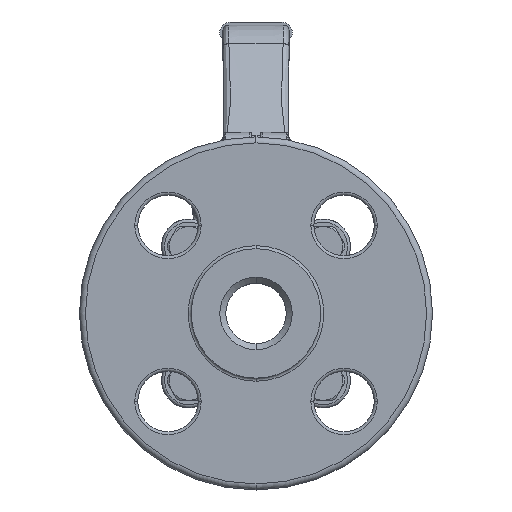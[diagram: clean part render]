
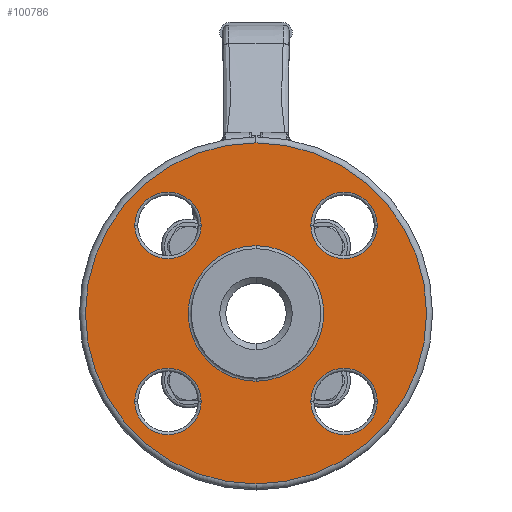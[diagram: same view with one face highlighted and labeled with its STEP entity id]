
A CAD part, left-side view. The second image highlights one B-rep face of the part: STEP entity #100786.
In plain terms, the highlighted planar face has unit normal (-1, 0, 0).
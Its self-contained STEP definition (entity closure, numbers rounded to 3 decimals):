
#24730=CARTESIAN_POINT('',(-63.4,0.,0.));
#24731=DIRECTION('',(1.,0.,0.));
#24732=DIRECTION('',(0.,0.,1.));
#24733=AXIS2_PLACEMENT_3D('',#24730,#24731,#24732);
#24745=CARTESIAN_POINT('',(-63.4,0.,0.));
#24746=DIRECTION('',(1.,0.,0.));
#24747=DIRECTION('',(0.,0.,-1.));
#24748=AXIS2_PLACEMENT_3D('',#24745,#24746,#24747);
#24763=CARTESIAN_POINT('',(-63.4,0.,0.));
#24764=DIRECTION('',(-1.,0.,0.));
#24765=DIRECTION('',(0.,0.,-1.));
#24766=AXIS2_PLACEMENT_3D('',#24763,#24764,#24765);
#24778=CARTESIAN_POINT('',(-63.4,0.,0.));
#24779=DIRECTION('',(-1.,0.,0.));
#24780=DIRECTION('',(0.,0.,1.));
#24781=AXIS2_PLACEMENT_3D('',#24778,#24779,#24780);
#26939=CARTESIAN_POINT('',(-63.4,29.168,29.168));
#26940=DIRECTION('',(1.,0.,0.));
#26941=DIRECTION('',(0.,1.,0.));
#26942=AXIS2_PLACEMENT_3D('',#26939,#26940,#26941);
#26954=CARTESIAN_POINT('',(-63.4,29.168,29.168));
#26955=DIRECTION('',(1.,0.,0.));
#26956=DIRECTION('',(0.,-1.,0.));
#26957=AXIS2_PLACEMENT_3D('',#26954,#26955,#26956);
#27007=CARTESIAN_POINT('',(-63.4,-29.168,29.168));
#27008=DIRECTION('',(1.,0.,0.));
#27009=DIRECTION('',(0.,-1.,0.));
#27010=AXIS2_PLACEMENT_3D('',#27007,#27008,#27009);
#27022=CARTESIAN_POINT('',(-63.4,-29.168,29.168));
#27023=DIRECTION('',(1.,0.,0.));
#27024=DIRECTION('',(0.,1.,0.));
#27025=AXIS2_PLACEMENT_3D('',#27022,#27023,#27024);
#27075=CARTESIAN_POINT('',(-63.4,-29.168,-29.168));
#27076=DIRECTION('',(1.,0.,0.));
#27077=DIRECTION('',(0.,1.,0.));
#27078=AXIS2_PLACEMENT_3D('',#27075,#27076,#27077);
#27090=CARTESIAN_POINT('',(-63.4,-29.168,-29.168));
#27091=DIRECTION('',(1.,0.,0.));
#27092=DIRECTION('',(0.,-1.,0.));
#27093=AXIS2_PLACEMENT_3D('',#27090,#27091,#27092);
#27143=CARTESIAN_POINT('',(-63.4,29.168,-29.168));
#27144=DIRECTION('',(1.,0.,0.));
#27145=DIRECTION('',(0.,1.,0.));
#27146=AXIS2_PLACEMENT_3D('',#27143,#27144,#27145);
#27158=CARTESIAN_POINT('',(-63.4,29.168,-29.168));
#27159=DIRECTION('',(1.,0.,0.));
#27160=DIRECTION('',(0.,-1.,0.));
#27161=AXIS2_PLACEMENT_3D('',#27158,#27159,#27160);
#46055=CARTESIAN_POINT('',(-63.4,0.,-56.5));
#46056=CARTESIAN_POINT('',(-63.4,0.,56.5));
#46057=VERTEX_POINT('',#46055);
#46058=VERTEX_POINT('',#46056);
#47035=CARTESIAN_POINT('',(-63.4,40.168,29.168));
#47036=CARTESIAN_POINT('',(-63.4,18.168,29.168));
#47037=VERTEX_POINT('',#47035);
#47038=VERTEX_POINT('',#47036);
#47051=CARTESIAN_POINT('',(-63.4,-40.168,29.168));
#47052=CARTESIAN_POINT('',(-63.4,-18.168,29.168));
#47053=VERTEX_POINT('',#47051);
#47054=VERTEX_POINT('',#47052);
#47067=CARTESIAN_POINT('',(-63.4,-18.168,-29.168));
#47068=CARTESIAN_POINT('',(-63.4,-40.168,-29.168));
#47069=VERTEX_POINT('',#47067);
#47070=VERTEX_POINT('',#47068);
#47083=CARTESIAN_POINT('',(-63.4,40.168,-29.168));
#47084=CARTESIAN_POINT('',(-63.4,18.168,-29.168));
#47085=VERTEX_POINT('',#47083);
#47086=VERTEX_POINT('',#47084);
#47923=CARTESIAN_POINT('',(-63.4,0.,-22.45));
#47924=CARTESIAN_POINT('',(-63.4,0.,22.45));
#47925=VERTEX_POINT('',#47923);
#47926=VERTEX_POINT('',#47924);
#100747=CARTESIAN_POINT('',(-63.4,0.,0.));
#100748=DIRECTION('',(-1.,0.,0.));
#100749=DIRECTION('',(0.,0.,1.));
#100750=AXIS2_PLACEMENT_3D('',#100747,#100748,#100749);
#100751=PLANE('',#100750);
#100752=ORIENTED_EDGE('',*,*,#100729,.T.);
#100753=ORIENTED_EDGE('',*,*,#100714,.T.);
#100754=EDGE_LOOP('',(#100752,#100753));
#100755=FACE_OUTER_BOUND('',#100754,.F.);
#100757=ORIENTED_EDGE('',*,*,#100756,.T.);
#100759=ORIENTED_EDGE('',*,*,#100758,.T.);
#100760=EDGE_LOOP('',(#100757,#100759));
#100761=FACE_BOUND('',#100760,.F.);
#100763=ORIENTED_EDGE('',*,*,#100762,.F.);
#100765=ORIENTED_EDGE('',*,*,#100764,.F.);
#100766=EDGE_LOOP('',(#100763,#100765));
#100767=FACE_BOUND('',#100766,.F.);
#100769=ORIENTED_EDGE('',*,*,#100768,.F.);
#100771=ORIENTED_EDGE('',*,*,#100770,.F.);
#100772=EDGE_LOOP('',(#100769,#100771));
#100773=FACE_BOUND('',#100772,.F.);
#100775=ORIENTED_EDGE('',*,*,#100774,.F.);
#100777=ORIENTED_EDGE('',*,*,#100776,.F.);
#100778=EDGE_LOOP('',(#100775,#100777));
#100779=FACE_BOUND('',#100778,.F.);
#100781=ORIENTED_EDGE('',*,*,#100780,.F.);
#100783=ORIENTED_EDGE('',*,*,#100782,.F.);
#100784=EDGE_LOOP('',(#100781,#100783));
#100785=FACE_BOUND('',#100784,.F.);
#100786=ADVANCED_FACE('',(#100755,#100761,#100767,#100773,#100779,#100785),
#100751,.T.);
#24734=CIRCLE('',#24733,56.5);
#24749=CIRCLE('',#24748,56.5);
#24767=CIRCLE('',#24766,22.45);
#24782=CIRCLE('',#24781,22.45);
#26943=CIRCLE('',#26942,11.);
#26958=CIRCLE('',#26957,11.);
#27011=CIRCLE('',#27010,11.);
#27026=CIRCLE('',#27025,11.);
#27079=CIRCLE('',#27078,11.);
#27094=CIRCLE('',#27093,11.);
#27147=CIRCLE('',#27146,11.);
#27162=CIRCLE('',#27161,11.);
#100714=EDGE_CURVE('',#46058,#46057,#24734,.T.);
#100729=EDGE_CURVE('',#46057,#46058,#24749,.T.);
#100756=EDGE_CURVE('',#47925,#47926,#24767,.T.);
#100758=EDGE_CURVE('',#47926,#47925,#24782,.T.);
#100762=EDGE_CURVE('',#47037,#47038,#26943,.T.);
#100764=EDGE_CURVE('',#47038,#47037,#26958,.T.);
#100768=EDGE_CURVE('',#47053,#47054,#27011,.T.);
#100770=EDGE_CURVE('',#47054,#47053,#27026,.T.);
#100774=EDGE_CURVE('',#47069,#47070,#27079,.T.);
#100776=EDGE_CURVE('',#47070,#47069,#27094,.T.);
#100780=EDGE_CURVE('',#47085,#47086,#27147,.T.);
#100782=EDGE_CURVE('',#47086,#47085,#27162,.T.);
